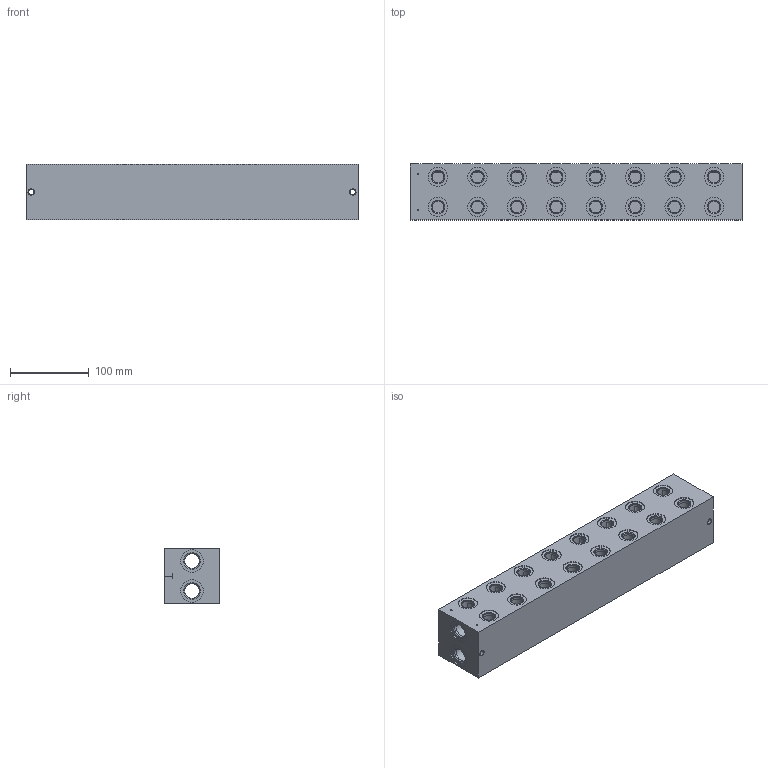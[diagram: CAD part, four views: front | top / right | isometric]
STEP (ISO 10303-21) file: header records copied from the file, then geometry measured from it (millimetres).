
FILE_DESCRIPTION((''),'2;1');
FILE_NAME('27563400','2015-11-27T',('Ahcz.brigadnik05'),(''),'PRO/ENGINEER BY PARAMETRIC TECHNOLOGY CORPORATION, 2015110','PRO/ENGINEER BY PARAMETRIC TECHNOLOGY CORPORATION, 2015110','');
FILE_SCHEMA(('AUTOMOTIVE_DESIGN { 1 0 10303 214 1 1 1 1 }'));
Length unit declared in the file: millimetre
Products named in the file (1): 27563400
Bounding box: 421 x 71 x 71 mm (x, y, z)
Volume: 689873.8 mm3; surface area: 263380.7 mm2
Topology: 1 solids, 59 shells, 494 faces, 1983 edges, 1991 vertices
Faces by surface type: cylinder 346, plane 94, cone 54
Entity records: 29010 total; most frequent: CARTESIAN_POINT 6066, DIRECTION 3637, ORIENTED_EDGE 2468, PRESENTATION_STYLE_ASSIGNMENT 2101, STYLED_ITEM 2101, CURVE_STYLE 2036, EDGE_CURVE 1350, AXIS2_PLACEMENT_3D 1275
